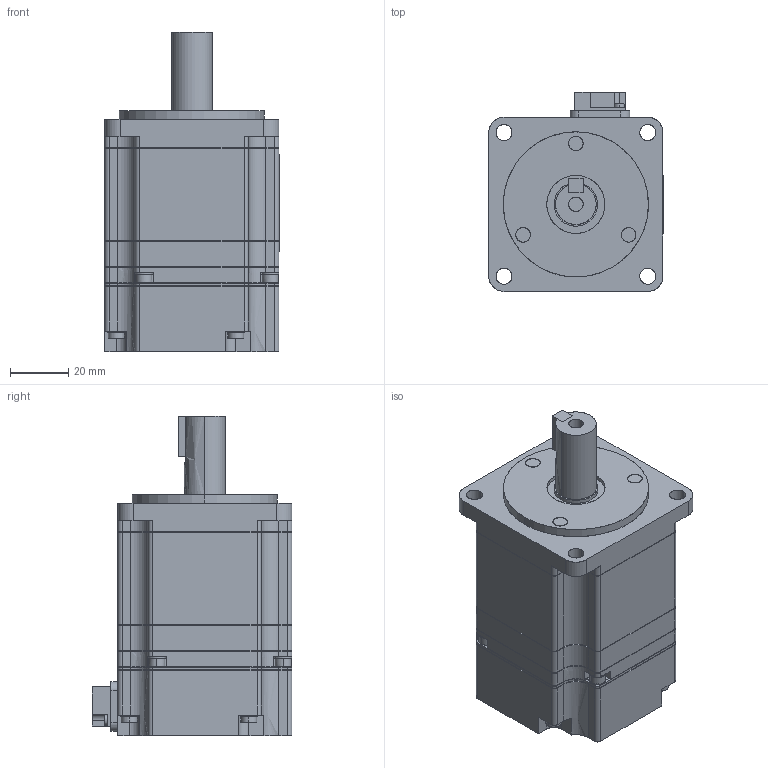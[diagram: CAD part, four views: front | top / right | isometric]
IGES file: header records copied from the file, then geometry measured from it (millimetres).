
Start section: SolidWorks IGES file using analytic representation for surfaces
Global section: file name: C:\YASKAWA\sgmav_02a_a61.IGS; native system: SolidWorks 2006 by SolidWorks Corporation; preprocessor: SolidWorks 2006 by SolidWorks Corporation; author: yamanouchi; date: 080610.210035; units: millimetre
Bounding box: 60.1 x 68.8 x 110.1 mm (x, y, z)
Surface area: 31672 mm2 (no closed solid volume)
Topology: 0 solids, 0 shells, 496 faces, 6679 edges, 6679 vertices
Faces by surface type: bspline 276, revolution 220
